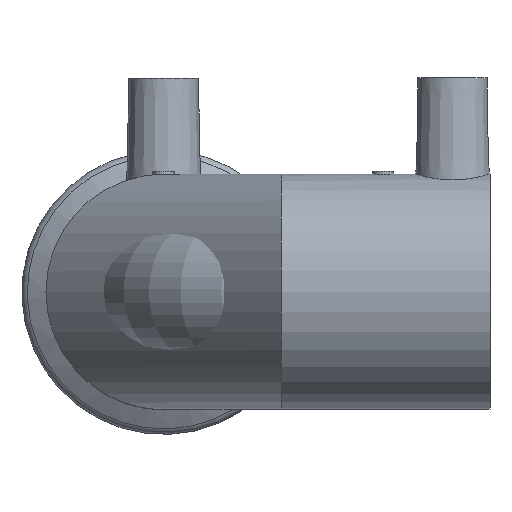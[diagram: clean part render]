
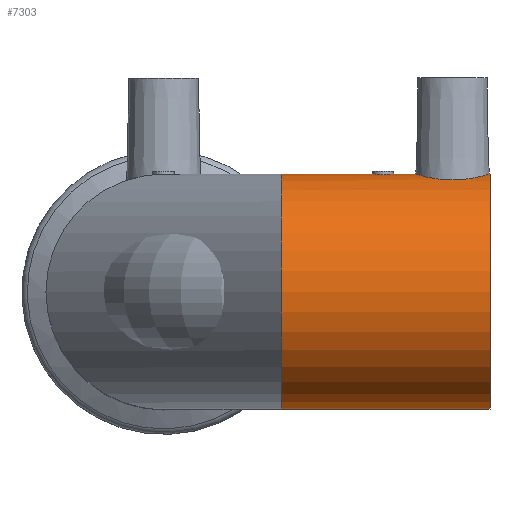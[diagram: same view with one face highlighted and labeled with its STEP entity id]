
A CAD part, top view. The second image highlights one B-rep face of the part: STEP entity #7303.
In plain terms, the highlighted cylindrical face has radius 22 mm (diameter 44 mm), a full revolution.
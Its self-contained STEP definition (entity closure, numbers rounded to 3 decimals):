
#941=CIRCLE('',#9498,22.);
#942=CIRCLE('',#9499,22.);
#1332=ORIENTED_EDGE('',*,*,#3692,.T.);
#1333=ORIENTED_EDGE('',*,*,#3693,.T.);
#1334=ORIENTED_EDGE('',*,*,#3694,.F.);
#1335=ORIENTED_EDGE('',*,*,#3695,.F.);
#3692=EDGE_CURVE('',#4872,#4872,#5604,.T.);
#3693=EDGE_CURVE('',#4873,#4873,#941,.F.);
#3694=EDGE_CURVE('',#4874,#4874,#942,.F.);
#3695=EDGE_CURVE('',#4875,#4875,#5605,.T.);
#4872=VERTEX_POINT('',#12332);
#4873=VERTEX_POINT('',#12334);
#4874=VERTEX_POINT('',#12336);
#4875=VERTEX_POINT('',#12356);
#5604=B_SPLINE_CURVE_WITH_KNOTS('',3,(#12321,#12322,#12323,#12324,#12325,
#12326,#12327,#12328,#12329,#12330,#12331),.UNSPECIFIED.,.T.,.F.,(1,1,1,
1,1,1,1,1,1,1,1,1,1,1,1),(-0.005,-0.003,-0.002,
0.,0.002,0.003,0.005,0.006,
0.008,0.009,0.011,0.013,
0.014,0.016,0.017),.UNSPECIFIED.);
#5605=B_SPLINE_CURVE_WITH_KNOTS('',3,(#12337,#12338,#12339,#12340,#12341,
#12342,#12343,#12344,#12345,#12346,#12347,#12348,#12349,#12350,#12351,#12352,
#12353,#12354,#12355),.UNSPECIFIED.,.T.,.F.,(1,1,1,1,1,1,1,1,1,1,1,1,1,
1,1,1,1,1,1,1,1,1,1),(-0.008,-0.005,-0.003,
0.,0.003,0.005,0.008,0.011,
0.014,0.016,0.019,0.022,
0.024,0.027,0.03,0.033,
0.035,0.038,0.041,0.043,
0.046,0.049,0.051),.UNSPECIFIED.);
#6044=EDGE_LOOP('',(#1332));
#6045=EDGE_LOOP('',(#1333));
#6046=EDGE_LOOP('',(#1334));
#6047=EDGE_LOOP('',(#1335));
#6626=FACE_BOUND('',#6044,.T.);
#6627=FACE_BOUND('',#6045,.T.);
#6628=FACE_BOUND('',#6046,.T.);
#6629=FACE_BOUND('',#6047,.T.);
#7208=CYLINDRICAL_SURFACE('',#9497,22.);
#7303=ADVANCED_FACE('',(#6626,#6627,#6628,#6629),#7208,.T.);
#9497=AXIS2_PLACEMENT_3D('',#12320,#10395,#10396);
#9498=AXIS2_PLACEMENT_3D('',#12333,#10397,#10398);
#9499=AXIS2_PLACEMENT_3D('',#12335,#10399,#10400);
#10395=DIRECTION('',(-1.,0.,0.));
#10396=DIRECTION('',(0.,0.,1.));
#10397=DIRECTION('',(-1.,0.,0.));
#10398=DIRECTION('',(0.,0.,-1.));
#10399=DIRECTION('',(-1.,0.,0.));
#10400=DIRECTION('',(0.,0.,-1.));
#12320=CARTESIAN_POINT('',(61.,0.,61.));
#12321=CARTESIAN_POINT('',(39.431,21.955,59.434));
#12322=CARTESIAN_POINT('',(41.,21.886,58.783));
#12323=CARTESIAN_POINT('',(42.567,21.955,59.434));
#12324=CARTESIAN_POINT('',(43.216,22.023,60.998));
#12325=CARTESIAN_POINT('',(42.568,21.955,62.567));
#12326=CARTESIAN_POINT('',(41.,21.886,63.216));
#12327=CARTESIAN_POINT('',(39.435,21.954,62.569));
#12328=CARTESIAN_POINT('',(38.784,22.023,61.002));
#12329=CARTESIAN_POINT('',(39.431,21.955,59.434));
#12330=CARTESIAN_POINT('',(41.,21.886,58.783));
#12331=CARTESIAN_POINT('',(42.567,21.955,59.434));
#12332=CARTESIAN_POINT('',(41.,21.909,59.));
#12333=CARTESIAN_POINT('',(22.,0.,61.));
#12334=CARTESIAN_POINT('',(22.,0.,39.));
#12335=CARTESIAN_POINT('',(61.,0.,61.));
#12336=CARTESIAN_POINT('',(61.,0.,39.));
#12337=CARTESIAN_POINT('',(51.443,20.995,54.402));
#12338=CARTESIAN_POINT('',(49.129,21.426,55.884));
#12339=CARTESIAN_POINT('',(47.555,21.861,58.126));
#12340=CARTESIAN_POINT('',(46.946,22.058,60.828));
#12341=CARTESIAN_POINT('',(47.424,21.902,63.56));
#12342=CARTESIAN_POINT('',(48.892,21.485,65.876));
#12343=CARTESIAN_POINT('',(51.121,21.04,67.461));
#12344=CARTESIAN_POINT('',(53.825,20.828,68.08));
#12345=CARTESIAN_POINT('',(56.561,20.996,67.596));
#12346=CARTESIAN_POINT('',(58.868,21.426,66.117));
#12347=CARTESIAN_POINT('',(60.443,21.86,63.879));
#12348=CARTESIAN_POINT('',(61.054,22.058,61.179));
#12349=CARTESIAN_POINT('',(60.577,21.902,58.44));
#12350=CARTESIAN_POINT('',(59.106,21.484,56.121));
#12351=CARTESIAN_POINT('',(56.875,21.039,54.538));
#12352=CARTESIAN_POINT('',(54.176,20.828,53.921));
#12353=CARTESIAN_POINT('',(51.443,20.995,54.402));
#12354=CARTESIAN_POINT('',(49.129,21.426,55.884));
#12355=CARTESIAN_POINT('',(47.555,21.861,58.126));
#12356=CARTESIAN_POINT('',(49.252,21.427,56.011));
